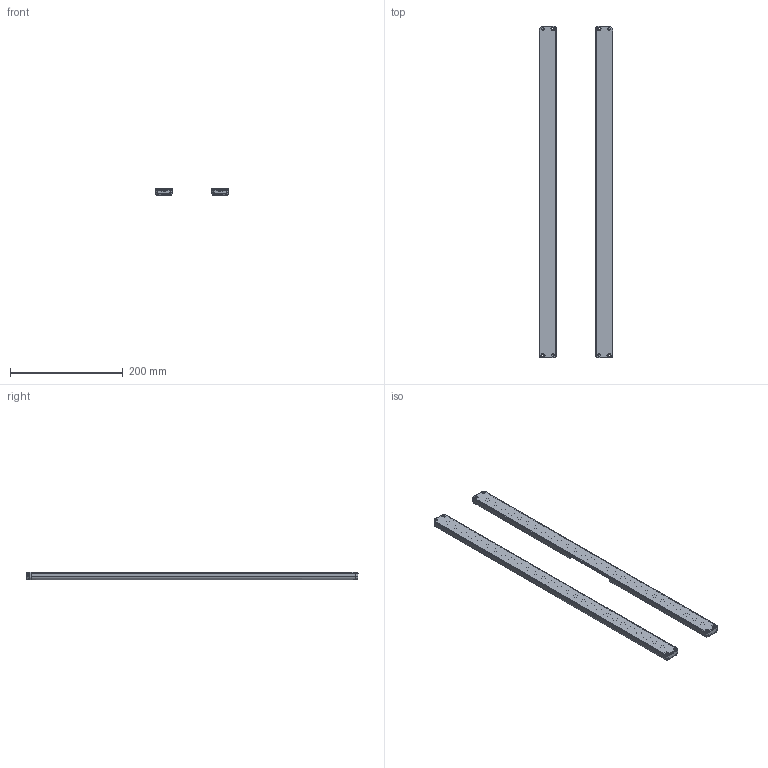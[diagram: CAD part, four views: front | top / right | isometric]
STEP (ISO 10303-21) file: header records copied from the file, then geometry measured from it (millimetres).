
FILE_DESCRIPTION(/* description */ (''),/* implementation_level */ '2;1');
FILE_NAME(/* name */ '2820.stp',/* time_stamp */ '2021-01-28T22:29:37+08:00',/* author */ (''),/* organization */ (''),/* preprocessor_version */ 'ST-DEVELOPER v16',/* originating_system */ 'SIEMENS PLM Software NX 10.0',/* authorisation */ '');
FILE_SCHEMA (('AP203_CONFIGURATION_CONTROLLED_3D_DESIGN_OF_MECHANICAL_PARTS_AND_ASSEMBLIES_MIM_LF { 1 0 10303 403 2 1 2}'));
Products named in the file (1): Admi08A40AB2lz1c
Bounding box: 130 x 590 x 13 mm (x, y, z)
Volume: 148989.1 mm3; surface area: 201284.4 mm2
Topology: 4 solids, 4 shells, 2549 faces, 7176 edges, 4771 vertices
Faces by surface type: plane 2293, cylinder 151, bspline 55, cone 42, extrusion 8
Full cylindrical faces by diameter (mm): 2 x16, 4.4 x8, 4.5 x4, 7.617 x24
Entity records: 83442 total; most frequent: CARTESIAN_POINT 18020, ORIENTED_EDGE 14046, DIRECTION 12461, EDGE_CURVE 7023, VECTOR 5987, LINE 5979, VERTEX_POINT 4703, AXIS2_PLACEMENT_3D 3237
